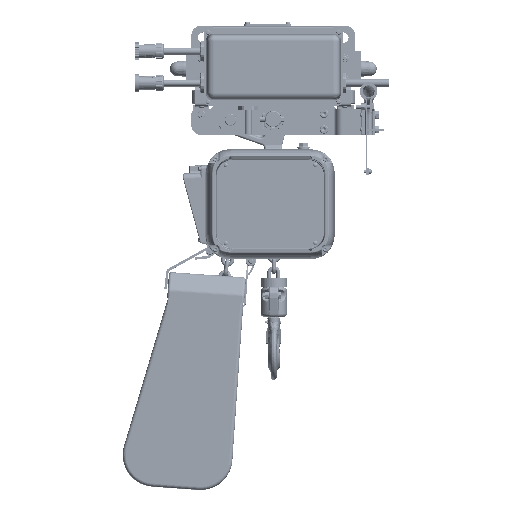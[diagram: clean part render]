
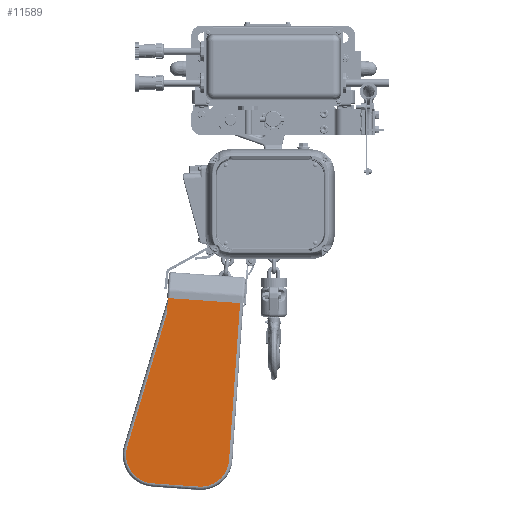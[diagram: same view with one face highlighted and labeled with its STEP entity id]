
A CAD part, top view. The second image highlights one B-rep face of the part: STEP entity #11589.
In plain terms, the highlighted planar face has unit normal (0, 0, 1) as drawn and (-1, 0, 0) by its records, which use the part's own axes.
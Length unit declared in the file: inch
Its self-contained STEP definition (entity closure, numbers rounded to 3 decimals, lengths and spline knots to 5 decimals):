
#751 = EDGE_CURVE ( 'NONE', #300851, #89990, #22595, .T. ) ;
#6355 = EDGE_CURVE ( 'NONE', #297814, #11517, #93903, .T. ) ;
#10038 = DIRECTION ( 'NONE',  ( 1., 0., 0. ) ) ;
#11517 = VERTEX_POINT ( 'NONE', #281409 ) ;
#11589 = ADVANCED_FACE ( 'NONE', ( #347740 ), #150302, .F. ) ;
#22595 = CIRCLE ( 'NONE', #281738, 2.15 ) ;
#25045 = EDGE_CURVE ( 'NONE', #136779, #166039, #166855, .T. ) ;
#28882 = DIRECTION ( 'NONE',  ( -1., 0., 0. ) ) ;
#39793 = VECTOR ( 'NONE', #202779, 39.37008 ) ;
#45983 = EDGE_CURVE ( 'NONE', #251384, #116465, #332836, .T. ) ;
#46773 = ORIENTED_EDGE ( 'NONE', *, *, #45983, .T. ) ;
#47161 = ORIENTED_EDGE ( 'NONE', *, *, #751, .T. ) ;
#54244 = DIRECTION ( 'NONE',  ( -1., 0., 0. ) ) ;
#80063 = CARTESIAN_POINT ( 'NONE',  ( 0.06465, -14.05, -5.96 ) ) ;
#81172 = ORIENTED_EDGE ( 'NONE', *, *, #25045, .T. ) ;
#89990 = VERTEX_POINT ( 'NONE', #305482 ) ;
#92879 = VECTOR ( 'NONE', #229922, 39.37008 ) ;
#93313 = EDGE_LOOP ( 'NONE', ( #132050, #317661, #47161, #231295, #46773, #118272, #81172, #163361 ) ) ;
#93903 = LINE ( 'NONE', #259877, #39793 ) ;
#103034 = LINE ( 'NONE', #241311, #205323 ) ;
#104740 = CARTESIAN_POINT ( 'NONE',  ( 0.06465, -11.43288, -8.05864 ) ) ;
#106199 = CARTESIAN_POINT ( 'NONE',  ( 0.06465, -11.9, -5.96 ) ) ;
#116465 = VERTEX_POINT ( 'NONE', #244223 ) ;
#118272 = ORIENTED_EDGE ( 'NONE', *, *, #131727, .T. ) ;
#131727 = EDGE_CURVE ( 'NONE', #116465, #136779, #160928, .T. ) ;
#132050 = ORIENTED_EDGE ( 'NONE', *, *, #6355, .T. ) ;
#134424 = DIRECTION ( 'NONE',  ( 0., 0., -1. ) ) ;
#136779 = VERTEX_POINT ( 'NONE', #200906 ) ;
#140088 = VECTOR ( 'NONE', #166717, 39.37008 ) ;
#141009 = CARTESIAN_POINT ( 'NONE',  ( 0.06465, -11.9, -0.31 ) ) ;
#149046 = AXIS2_PLACEMENT_3D ( 'NONE', #307005, #54244, #308831 ) ;
#150302 = PLANE ( 'NONE',  #249037 ) ;
#160928 = CIRCLE ( 'NONE', #149046, 2.15 ) ;
#163361 = ORIENTED_EDGE ( 'NONE', *, *, #233422, .T. ) ;
#166039 = VERTEX_POINT ( 'NONE', #286393 ) ;
#166717 = DIRECTION ( 'NONE',  ( 0., 0., 1. ) ) ;
#166855 = LINE ( 'NONE', #141009, #287364 ) ;
#171006 = CARTESIAN_POINT ( 'NONE',  ( 0.06465, -11.43288, -8.05864 ) ) ;
#190733 = AXIS2_PLACEMENT_3D ( 'NONE', #106199, #331275, #334924 ) ;
#198690 = LINE ( 'NONE', #171006, #92879 ) ;
#200906 = CARTESIAN_POINT ( 'NONE',  ( 0.06465, -11.9, -0.31 ) ) ;
#202779 = DIRECTION ( 'NONE',  ( 0., -1., 0. ) ) ;
#203760 = CARTESIAN_POINT ( 'NONE',  ( 0.06465, -11.9, -5.96 ) ) ;
#205323 = VECTOR ( 'NONE', #134424, 39.37008 ) ;
#220774 = CARTESIAN_POINT ( 'NONE',  ( 0.06465, -11.9, -5.96 ) ) ;
#226201 = CIRCLE ( 'NONE', #190733, 2.15 ) ;
#229922 = DIRECTION ( 'NONE',  ( 0., -0.976, -0.217 ) ) ;
#231295 = ORIENTED_EDGE ( 'NONE', *, *, #272254, .T. ) ;
#233422 = EDGE_CURVE ( 'NONE', #166039, #297814, #103034, .T. ) ;
#236841 = DIRECTION ( 'NONE',  ( 0., 0., -1. ) ) ;
#241311 = CARTESIAN_POINT ( 'NONE',  ( 0.06465, 0.5, -0.06 ) ) ;
#244223 = CARTESIAN_POINT ( 'NONE',  ( 0.06465, -14.05, -2.46 ) ) ;
#249037 = AXIS2_PLACEMENT_3D ( 'NONE', #203760, #10038, #236841 ) ;
#250240 = DIRECTION ( 'NONE',  ( 0., 0., -1. ) ) ;
#251384 = VERTEX_POINT ( 'NONE', #262415 ) ;
#253397 = DIRECTION ( 'NONE',  ( 0., 1., 0. ) ) ;
#259877 = CARTESIAN_POINT ( 'NONE',  ( 0.06465, 0.5, -5.77 ) ) ;
#262415 = CARTESIAN_POINT ( 'NONE',  ( 0.06465, -14.05, -5.96 ) ) ;
#265325 = CARTESIAN_POINT ( 'NONE',  ( 0.06465, 0.5, -5.77 ) ) ;
#272254 = EDGE_CURVE ( 'NONE', #89990, #251384, #226201, .T. ) ;
#281409 = CARTESIAN_POINT ( 'NONE',  ( 0.06465, -1.15067, -5.77 ) ) ;
#281738 = AXIS2_PLACEMENT_3D ( 'NONE', #220774, #28882, #250240 ) ;
#286393 = CARTESIAN_POINT ( 'NONE',  ( 0.06465, 0.5, -0.31 ) ) ;
#287364 = VECTOR ( 'NONE', #253397, 39.37008 ) ;
#297814 = VERTEX_POINT ( 'NONE', #265325 ) ;
#298065 = EDGE_CURVE ( 'NONE', #11517, #300851, #198690, .T. ) ;
#300851 = VERTEX_POINT ( 'NONE', #104740 ) ;
#305482 = CARTESIAN_POINT ( 'NONE',  ( 0.06465, -11.9, -8.11 ) ) ;
#307005 = CARTESIAN_POINT ( 'NONE',  ( 0.06465, -11.9, -2.46 ) ) ;
#308831 = DIRECTION ( 'NONE',  ( 0., 0., -1. ) ) ;
#317661 = ORIENTED_EDGE ( 'NONE', *, *, #298065, .T. ) ;
#331275 = DIRECTION ( 'NONE',  ( -1., 0., 0. ) ) ;
#332836 = LINE ( 'NONE', #80063, #140088 ) ;
#334924 = DIRECTION ( 'NONE',  ( 0., 0., -1. ) ) ;
#347740 = FACE_OUTER_BOUND ( 'NONE', #93313, .T. ) ;
